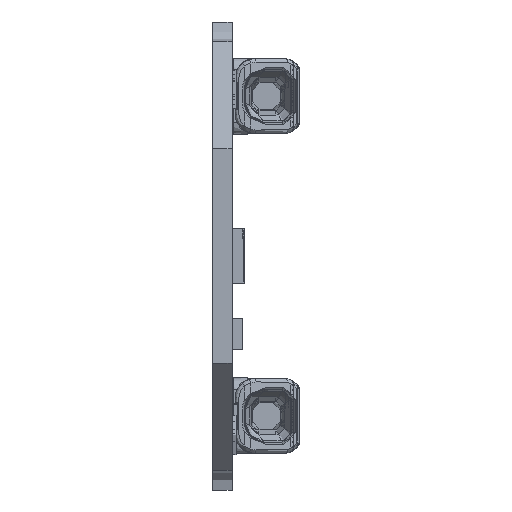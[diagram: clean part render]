
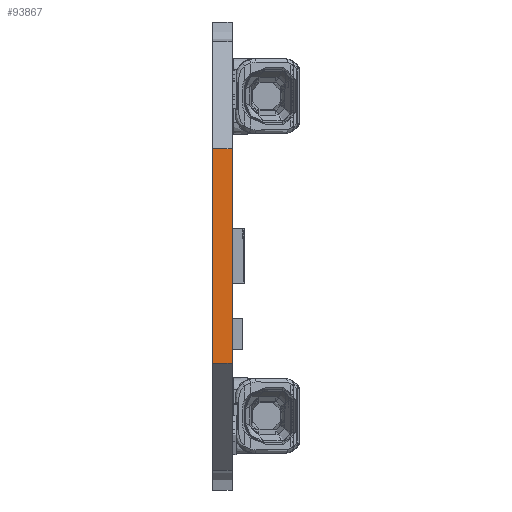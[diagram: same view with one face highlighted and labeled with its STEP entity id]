
A CAD part, left-side view. The second image highlights one B-rep face of the part: STEP entity #93867.
In plain terms, the highlighted planar face has unit normal (-1, 0, 0).
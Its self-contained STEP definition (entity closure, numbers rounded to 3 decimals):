
#4094=ORIENTED_EDGE('',*,*,#22723,.F.);
#4095=ORIENTED_EDGE('',*,*,#23349,.F.);
#4096=ORIENTED_EDGE('',*,*,#23207,.T.);
#4097=ORIENTED_EDGE('',*,*,#23348,.T.);
#22723=EDGE_CURVE('',#32645,#32646,#39129,.T.);
#23207=EDGE_CURVE('',#32939,#33069,#39361,.T.);
#23348=EDGE_CURVE('',#33069,#32646,#39492,.T.);
#23349=EDGE_CURVE('',#32939,#32645,#39493,.T.);
#32645=VERTEX_POINT('',#120356);
#32646=VERTEX_POINT('',#120358);
#32939=VERTEX_POINT('',#121543);
#33069=VERTEX_POINT('',#121803);
#39129=LINE('',#120357,#47581);
#39361=LINE('',#121804,#47813);
#39492=LINE('',#122095,#47944);
#39493=LINE('',#122097,#47945);
#47581=VECTOR('',#102545,1000.);
#47813=VECTOR('',#103143,1000.);
#47944=VECTOR('',#103574,1000.);
#47945=VECTOR('',#103577,1000.);
#55725=EDGE_LOOP('',(#4094,#4095,#4096,#4097));
#59955=FACE_BOUND('',#55725,.T.);
#63897=PLANE('',#97819);
#93867=ADVANCED_FACE('',(#59955),#63897,.T.);
#97819=AXIS2_PLACEMENT_3D('',#122096,#103575,#103576);
#102545=DIRECTION('',(0.,0.,-1.));
#103143=DIRECTION('',(0.,0.,-1.));
#103574=DIRECTION('',(0.,-1.,0.));
#103575=DIRECTION('',(-1.,0.,0.));
#103576=DIRECTION('',(0.,0.,1.));
#103577=DIRECTION('',(0.,-1.,0.));
#120356=CARTESIAN_POINT('',(-559.8,0.,5.5));
#120357=CARTESIAN_POINT('',(-559.8,0.,5.5));
#120358=CARTESIAN_POINT('',(-559.8,0.,-5.5));
#121543=CARTESIAN_POINT('',(-559.8,1.,5.5));
#121803=CARTESIAN_POINT('',(-559.8,1.,-5.5));
#121804=CARTESIAN_POINT('',(-559.8,1.,5.5));
#122095=CARTESIAN_POINT('',(-559.8,1.,-5.5));
#122096=CARTESIAN_POINT('',(-559.8,1.,5.5));
#122097=CARTESIAN_POINT('',(-559.8,1.,5.5));
